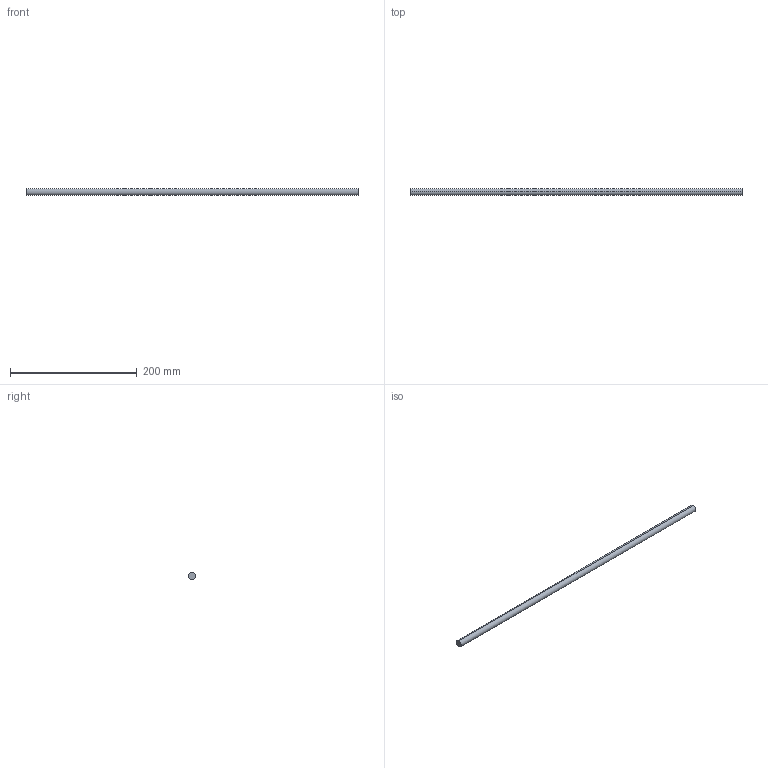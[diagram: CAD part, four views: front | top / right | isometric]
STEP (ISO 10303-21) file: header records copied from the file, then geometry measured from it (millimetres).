
FILE_DESCRIPTION (( 'STEP AP214' ), '1' );
FILE_NAME ('Querreling_2S-Rel_7102_25mm-Halter_KAB-650.step', '2010-09-22T15:06:05', ( 'grass' ), ( '' ), 'SwSTEP 2.0', 'SolidWorks 2010', '' );
FILE_SCHEMA (( 'AUTOMOTIVE_DESIGN' ));
Length unit declared in the file: millimetre
Products named in the file (1): Querreling_2S-Rel_7102_25mm-Halter_KAB-650
Bounding box: 524 x 11 x 11 mm (x, y, z)
Volume: 49797.4 mm3; surface area: 18298.2 mm2
Topology: 1 solids, 1 shells, 4 faces, 6 edges, 4 vertices
Faces by surface type: cylinder 2, plane 2
Entity records: 128 total; most frequent: DIRECTION 20, CARTESIAN_POINT 15, ORIENTED_EDGE 12, AXIS2_PLACEMENT_3D 9, EDGE_CURVE 6, EDGE_LOOP 4, CIRCLE 4, FACE_OUTER_BOUND 4
